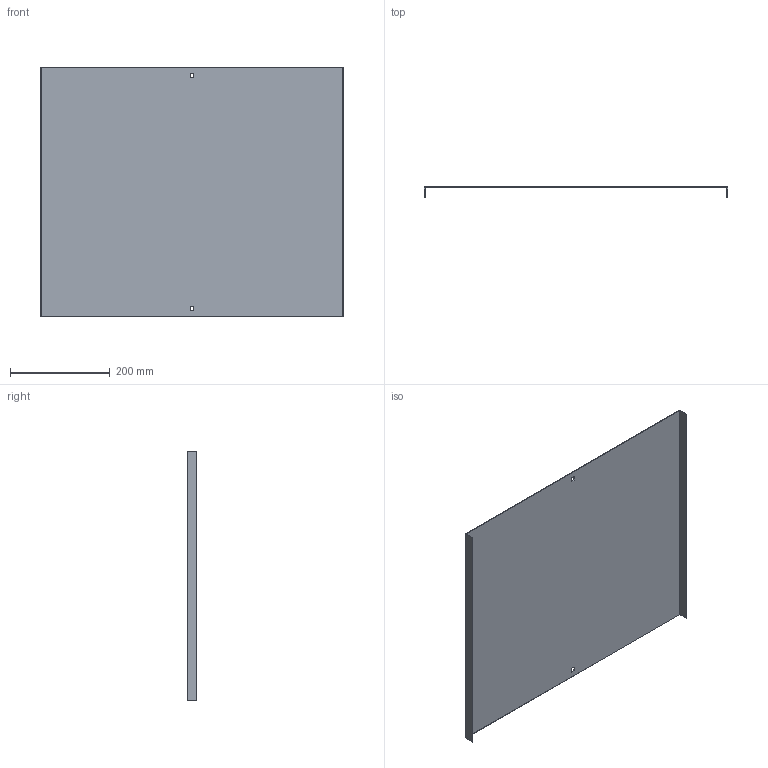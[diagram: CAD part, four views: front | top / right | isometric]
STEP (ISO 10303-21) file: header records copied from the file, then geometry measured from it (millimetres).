
FILE_DESCRIPTION (( 'STEP AP214' ), '1' );
FILE_NAME ('05G7R600.step', '2025-02-21T13:08:39', ( '' ), ( '' ), 'SwSTEP 2.0', 'SolidWorks 2023', '' );
FILE_SCHEMA (( 'AUTOMOTIVE_DESIGN' ));
Length unit declared in the file: millimetre
Products named in the file (1): 05G7R600
Bounding box: 607 x 20 x 500 mm (x, y, z)
Volume: 482824.5 mm3; surface area: 647291 mm2
Topology: 1 solids, 1 shells, 18 faces, 48 edges, 32 vertices
Faces by surface type: plane 18
Entity records: 583 total; most frequent: CARTESIAN_POINT 99, ORIENTED_EDGE 96, DIRECTION 86, VECTOR 48, LINE 48, EDGE_CURVE 48, VERTEX_POINT 32, EDGE_LOOP 22
